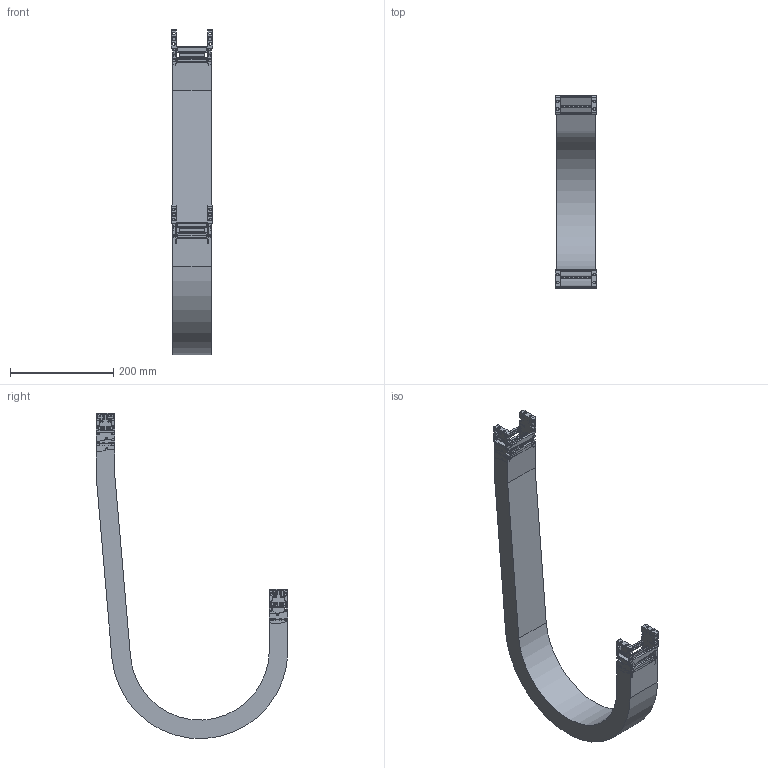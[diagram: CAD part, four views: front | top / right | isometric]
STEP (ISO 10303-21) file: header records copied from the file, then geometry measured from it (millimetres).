
FILE_DESCRIPTION((''),'2;1');
FILE_NAME('KST-25060-150_ASM','2017-12-05T',('KUNI004K'),(''),'PRO/ENGINEER BY PARAMETRIC TECHNOLOGY CORPORATION, 2015200','PRO/ENGINEER BY PARAMETRIC TECHNOLOGY CORPORATION, 2015200','');
FILE_SCHEMA(('AUTOMOTIVE_DESIGN { 1 0 10303 214 1 1 1 1 }'));
Length unit declared in the file: millimetre
Products named in the file (13): 25FBR; 25FBL; 25060C; KST25FBR_W060_ASM; 25150R; 25150L; 25060H; KST25060-150_1_ASM; KST25060_R150_BODY; 25MBR; 25MBL; KST25MBR_W060_ASM; KST-25060-150_ASM
Assembly tree (19 placements, depth 3):
  KST-25060-150_ASM
    KST25FBR_W060_ASM
      25FBR
      25FBL
      25060C  x2
    KST25060-150_1_ASM  x2
      25150R
      25150L
      25060C
      25060H
    KST25060_R150_BODY
    KST25MBR_W060_ASM
      25MBR
      25MBL
      25060C  x2
Bounding box: 80 x 371 x 629.14 mm (x, y, z)
Volume: 1195716.2 mm3; surface area: 552366.5 mm2
Topology: 21 solids, 21 shells, 2548 faces, 7082 edges, 4592 vertices
Faces by surface type: plane 1314, cylinder 930, bspline 208, sphere 64, torus 32
Entity records: 68245 total; most frequent: CARTESIAN_POINT 14238, ORIENTED_EDGE 7348, DIRECTION 6460, PRESENTATION_STYLE_ASSIGNMENT 4966, STYLED_ITEM 4966, CURVE_STYLE 3674, EDGE_CURVE 3674, VECTOR 2430
